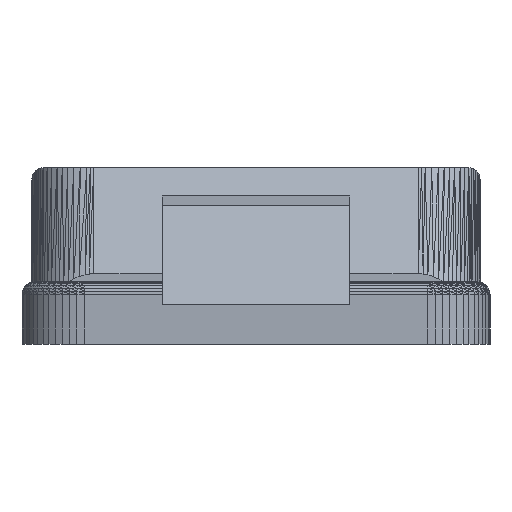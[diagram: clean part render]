
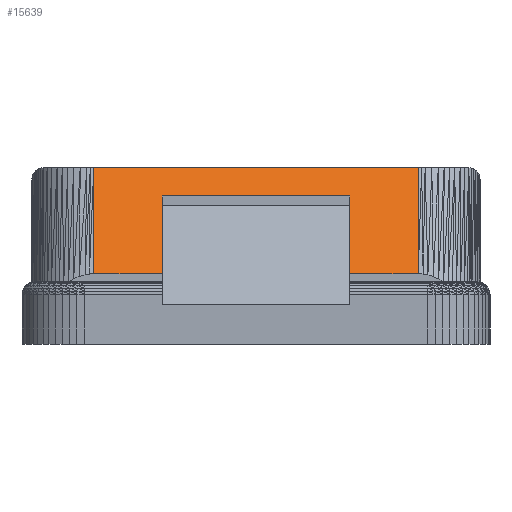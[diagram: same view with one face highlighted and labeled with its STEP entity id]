
A CAD part, front view. The second image highlights one B-rep face of the part: STEP entity #15639.
In plain terms, the highlighted planar face has unit normal (0, -0.75, 0.662).
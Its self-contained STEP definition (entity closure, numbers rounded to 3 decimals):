
#1021=PLANE('',#16732);
#2073=FACE_OUTER_BOUND('',#3133,.T.);
#3133=EDGE_LOOP('',(#14343,#14344,#14345,#14346,#14347,#14348,#14349,#14350));
#3808=LINE('',#22311,#5869);
#4912=LINE('',#24511,#6973);
#4915=LINE('',#24518,#6976);
#5193=LINE('',#25076,#7254);
#5194=LINE('',#25079,#7255);
#5196=LINE('',#25082,#7257);
#5199=LINE('',#25087,#7260);
#5200=LINE('',#25089,#7261);
#5869=VECTOR('',#17758,10.);
#6973=VECTOR('',#20268,10.);
#6976=VECTOR('',#20275,10.);
#7254=VECTOR('',#20851,10.);
#7255=VECTOR('',#20854,10.);
#7257=VECTOR('',#20858,10.);
#7260=VECTOR('',#20863,10.);
#7261=VECTOR('',#20866,10.);
#7824=VERTEX_POINT('',#22280);
#7832=VERTEX_POINT('',#22309);
#7833=VERTEX_POINT('',#22310);
#8226=VERTEX_POINT('',#24509);
#8228=VERTEX_POINT('',#24517);
#8359=VERTEX_POINT('',#25074);
#8360=VERTEX_POINT('',#25078);
#8361=VERTEX_POINT('',#25085);
#9017=EDGE_CURVE('',#7832,#7833,#3808,.T.);
#10121=EDGE_CURVE('',#7832,#8226,#4912,.T.);
#10124=EDGE_CURVE('',#7833,#8228,#4915,.T.);
#10402=EDGE_CURVE('',#8359,#8226,#5193,.T.);
#10403=EDGE_CURVE('',#8360,#8359,#5194,.T.);
#10405=EDGE_CURVE('',#7824,#8228,#5196,.T.);
#10408=EDGE_CURVE('',#8360,#8361,#5199,.T.);
#10409=EDGE_CURVE('',#8361,#7824,#5200,.T.);
#14343=ORIENTED_EDGE('',*,*,#10409,.T.);
#14344=ORIENTED_EDGE('',*,*,#10405,.T.);
#14345=ORIENTED_EDGE('',*,*,#10124,.F.);
#14346=ORIENTED_EDGE('',*,*,#9017,.F.);
#14347=ORIENTED_EDGE('',*,*,#10121,.T.);
#14348=ORIENTED_EDGE('',*,*,#10402,.F.);
#14349=ORIENTED_EDGE('',*,*,#10403,.F.);
#14350=ORIENTED_EDGE('',*,*,#10408,.T.);
#15639=ADVANCED_FACE('',(#2073),#1021,.T.);
#16732=AXIS2_PLACEMENT_3D('',#25088,#20864,#20865);
#17758=DIRECTION('',(0.,0.662,0.75));
#20268=DIRECTION('',(1.,0.,0.));
#20275=DIRECTION('',(1.,0.,0.));
#20851=DIRECTION('',(0.,-0.662,-0.75));
#20854=DIRECTION('',(-1.,0.,0.));
#20858=DIRECTION('',(0.,0.662,0.75));
#20863=DIRECTION('',(0.,-0.662,-0.75));
#20864=DIRECTION('center_axis',(0.,-0.75,0.662));
#20865=DIRECTION('ref_axis',(1.,0.,0.));
#20866=DIRECTION('',(1.,0.,0.));
#22280=CARTESIAN_POINT('',(26.,-53.,46.3));
#22309=CARTESIAN_POINT('',(-26.,-53.,46.3));
#22310=CARTESIAN_POINT('',(-26.,-38.,63.3));
#22311=CARTESIAN_POINT('',(-26.,-53.,46.3));
#24509=CARTESIAN_POINT('',(-15.,-53.,46.3));
#24511=CARTESIAN_POINT('',(-26.,-53.,46.3));
#24517=CARTESIAN_POINT('',(26.,-38.,63.3));
#24518=CARTESIAN_POINT('',(0.,-38.,63.3));
#25074=CARTESIAN_POINT('',(-15.,-42.,58.767));
#25076=CARTESIAN_POINT('',(-15.,-45.5,54.8));
#25078=CARTESIAN_POINT('',(15.,-42.,58.767));
#25079=CARTESIAN_POINT('',(-20.5,-42.,58.767));
#25082=CARTESIAN_POINT('',(26.,-45.5,54.8));
#25085=CARTESIAN_POINT('',(15.,-53.,46.3));
#25087=CARTESIAN_POINT('',(15.,-47.375,52.675));
#25088=CARTESIAN_POINT('Origin',(-26.,-38.,63.3));
#25089=CARTESIAN_POINT('',(-5.5,-53.,46.3));
